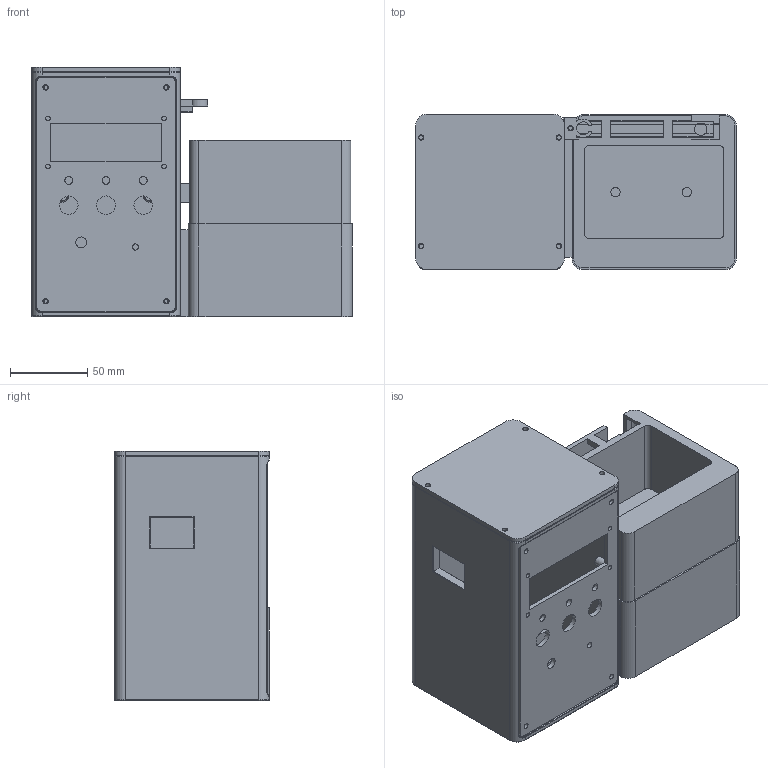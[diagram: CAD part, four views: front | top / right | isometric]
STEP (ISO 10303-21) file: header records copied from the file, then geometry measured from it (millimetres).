
FILE_DESCRIPTION(('Open CASCADE Model'),'2;1');
FILE_NAME('Open CASCADE Shape Model','2026-09-13T14:28:39',('Author'),( 'Open CASCADE'),'Open CASCADE STEP processor 7.9','Open CASCADE 7.9' ,'Unknown');
FILE_SCHEMA(('AUTOMOTIVE_DESIGN { 1 0 10303 214 1 1 1 1 }'));
Length unit declared in the file: millimetre
Products named in the file (7): Open CASCADE STEP translator 7.9 7; Open CASCADE STEP translator 7.9 7.1; Open CASCADE STEP translator 7.9 7.2; Open CASCADE STEP translator 7.9 7.3; Open CASCADE STEP translator 7.9 7.4; Open CASCADE STEP translator 7.9 7.5; Open CASCADE STEP translator 7.9 7.6
Assembly tree (6 placements, depth 2):
  Open CASCADE STEP translator 7.9 7
    Open CASCADE STEP translator 7.9 7.1
    Open CASCADE STEP translator 7.9 7.2
    Open CASCADE STEP translator 7.9 7.3
    Open CASCADE STEP translator 7.9 7.4
    Open CASCADE STEP translator 7.9 7.5
    Open CASCADE STEP translator 7.9 7.6
Bounding box: 207 x 100 x 161 mm (x, y, z)
Volume: 746618.9 mm3; surface area: 321265.9 mm2
Topology: 6 solids, 6 shells, 378 faces, 943 edges, 603 vertices
Faces by surface type: plane 207, cylinder 139, torus 22, cone 6, bspline 4
Full cylindrical faces by diameter (mm): 2.8 x15, 3 x4, 3.4 x11, 4 x1, 5 x3, 5.4 x3, 6 x6, 7 x1, 8 x11, 10.4 x1, 12 x3, 14.4 x1
Entity records: 25549 total; most frequent: CARTESIAN_POINT 6465, DIRECTION 3534, LINE 1913, VECTOR 1913, ORIENTED_EDGE 1886, PCURVE 1886, DEFINITIONAL_REPRESENTATION 1886, EDGE_CURVE 943
